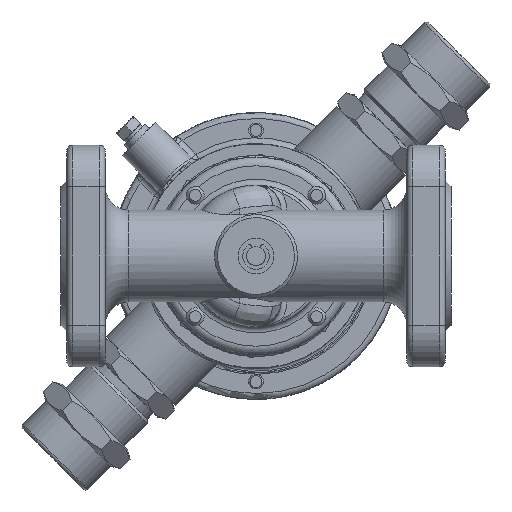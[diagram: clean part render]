
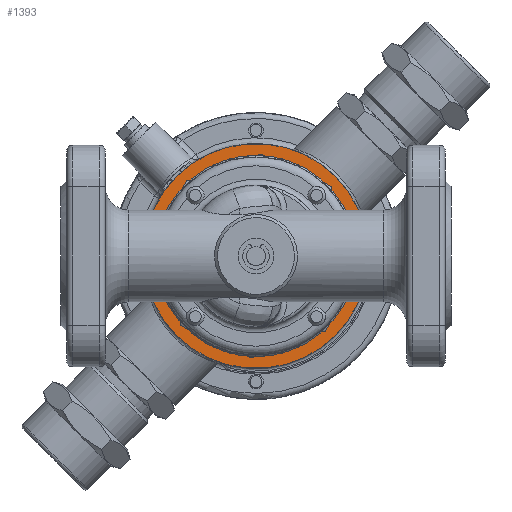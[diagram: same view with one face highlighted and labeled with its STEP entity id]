
A CAD part, front view. The second image highlights one B-rep face of the part: STEP entity #1393.
In plain terms, the highlighted planar face has unit normal (0, -1, 0).
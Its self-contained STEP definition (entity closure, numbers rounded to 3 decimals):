
#1393=ADVANCED_FACE('',(#16497,#16499,#16501,#16503),#16505,.T.);
#16497=FACE_BOUND('',#16498,.T.);
#16498=EDGE_LOOP('',(#29706));
#16499=FACE_BOUND('',#16500,.T.);
#16500=EDGE_LOOP('',(#29707));
#16501=FACE_BOUND('',#16502,.T.);
#16502=EDGE_LOOP('',(#29708));
#16503=FACE_OUTER_BOUND('',#16504,.T.);
#16504=EDGE_LOOP('',(#29709));
#16505=PLANE('',#16506);
#16506=AXIS2_PLACEMENT_3D('',#16507,#16508,#16509);
#16507=CARTESIAN_POINT('',(0.,124.,0.));
#16508=DIRECTION('',(0.,-1.,0.));
#16509=DIRECTION('',(0.707,0.,-0.707));
#29706=ORIENTED_EDGE('',*,*,#40087,.T.);
#29707=ORIENTED_EDGE('',*,*,#40088,.F.);
#29708=ORIENTED_EDGE('',*,*,#40089,.T.);
#29709=ORIENTED_EDGE('',*,*,#40010,.T.);
#40010=EDGE_CURVE('',#47487,#47487,#47489,.T.);
#40087=EDGE_CURVE('',#47606,#47606,#47607,.F.);
#40088=EDGE_CURVE('',#47608,#47608,#47609,.T.);
#40089=EDGE_CURVE('',#47610,#47610,#47611,.F.);
#47487=VERTEX_POINT('',#66745);
#47489=CIRCLE('',#66749,38.);
#47606=VERTEX_POINT('',#68150);
#47607=CIRCLE('',#68151,2.25);
#47608=VERTEX_POINT('',#68155);
#47609=CIRCLE('',#68156,22.);
#47610=VERTEX_POINT('',#68160);
#47611=CIRCLE('',#68161,2.25);
#66745=CARTESIAN_POINT('',(26.87,124.,-26.87));
#66749=AXIS2_PLACEMENT_3D('',#66750,#66751,#66752);
#66750=CARTESIAN_POINT('',(0.,124.,0.));
#66751=DIRECTION('',(0.,-1.,0.));
#66752=DIRECTION('',(0.707,0.,-0.707));
#68150=CARTESIAN_POINT('',(-22.097,124.,-22.097));
#68151=AXIS2_PLACEMENT_3D('',#68152,#68153,#68154);
#68152=CARTESIAN_POINT('',(-20.506,124.,-20.506));
#68153=DIRECTION('',(0.,-1.,0.));
#68154=DIRECTION('',(-0.707,0.,-0.707));
#68155=CARTESIAN_POINT('',(15.556,124.,-15.556));
#68156=AXIS2_PLACEMENT_3D('',#68157,#68158,#68159);
#68157=CARTESIAN_POINT('',(0.,124.,0.));
#68158=DIRECTION('',(0.,-1.,0.));
#68159=DIRECTION('',(0.707,0.,-0.707));
#68160=CARTESIAN_POINT('',(-22.097,124.,18.915));
#68161=AXIS2_PLACEMENT_3D('',#68162,#68163,#68164);
#68162=CARTESIAN_POINT('',(-20.506,124.,20.506));
#68163=DIRECTION('',(0.,-1.,0.));
#68164=DIRECTION('',(-0.707,0.,-0.707));
